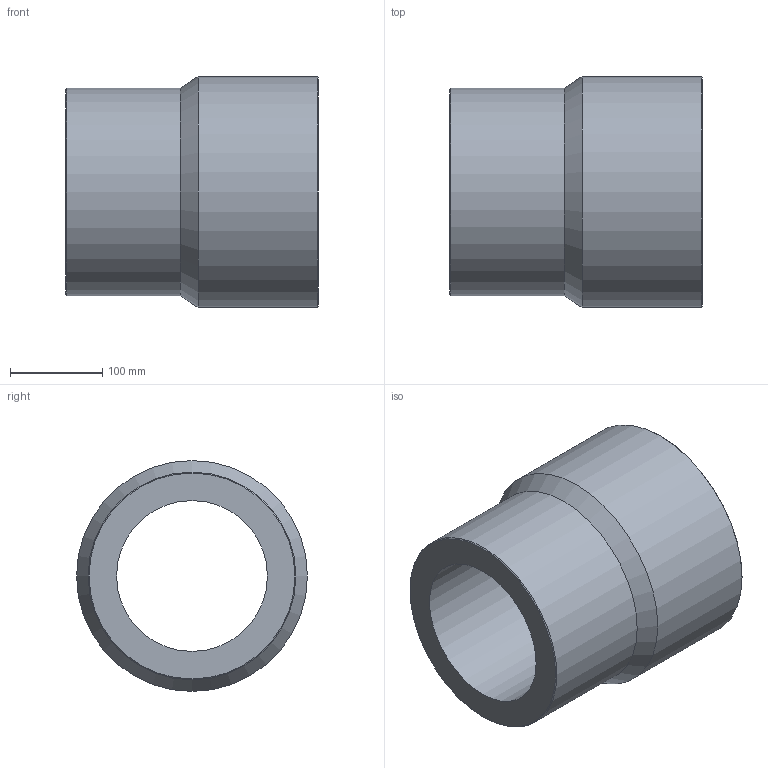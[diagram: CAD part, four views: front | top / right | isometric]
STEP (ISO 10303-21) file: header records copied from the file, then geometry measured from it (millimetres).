
FILE_DESCRIPTION(/* description */ ('Unknown'),/* implementation_level */ '2;1');
FILE_NAME(/* name */ 'RP250225H',/* time_stamp */ '2021-10-29T15:53:57+02:00',/* author */ ('Unknown'),/* organization */ ('Unknown'),/* preprocessor_version */ 'ST-DEVELOPER v16.7',/* originating_system */ 'Solid Edge',/* authorisation */ 'Unknown');
FILE_SCHEMA (('AUTOMOTIVE_DESIGN {1 0 10303 214 3 1 1}'));
Length unit declared in the file: millimetre
Products named in the file (1): RP250225H
Bounding box: 273 x 250 x 250 mm (x, y, z)
Volume: 5845057.3 mm3; surface area: 395975 mm2
Topology: 1 solids, 1 shells, 10 faces, 19 edges, 11 vertices
Faces by surface type: cylinder 4, cone 4, plane 2
Full cylindrical faces by diameter (mm): 163.4 x1, 181.6 x1, 225 x1, 250 x1
Entity records: 238 total; most frequent: DIRECTION 42, CARTESIAN_POINT 31, AXIS2_PLACEMENT_3D 21, ORIENTED_EDGE 20, EDGE_LOOP 20, FACE_BOUND 20, EDGE_CURVE 10, VERTEX_POINT 10
